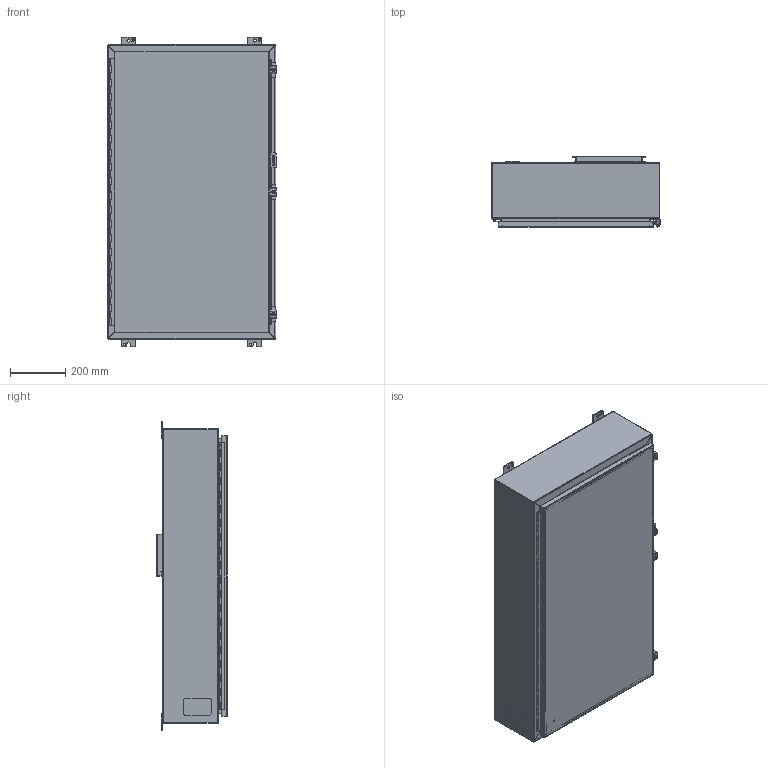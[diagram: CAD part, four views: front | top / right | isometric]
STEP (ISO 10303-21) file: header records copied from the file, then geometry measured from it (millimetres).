
FILE_DESCRIPTION(/* description */ ('Unknown'),/* implementation_level */ '2;1');
FILE_NAME(/* name */ '1418N8LP',/* time_stamp */ '2026-02-20T16:35:22-05:00',/* author */ ('Unknown'),/* organization */ ('Unknown'),/* preprocessor_version */ 'ST-DEVELOPER v18.104',/* originating_system */ 'Solid Edge',/* authorisation */ 'Unknown');
FILE_SCHEMA (('AUTOMOTIVE_DESIGN {1 0 10303 214 3 1 1}'));
Length unit declared in the file: millimetre
Products named in the file (31): 1418N8LP; STD26094; STD21878; COM42780; AKT90223; SPR20265; SCC19011; WAF25035; COM42667; COM40153-1; KIT90256; LAB30005; NTS165305; NTS16535; KIT90519; WAF25059; NTS166105; COM71780-22; COM40153-2; PNT11078; HNG10620-38C; COM70219_oa_0; COM48492; FET07710; HNG10620-38P; QLB20254; HNG10620-38B; BUL10020; QLB30109; PKT99
Assembly tree (44 placements, depth 3):
  1418N8LP
    STD26094  x6
    STD21878
    COM42780  x3
    AKT90223  x3
      SPR20265
      SCC19011
      WAF25035
      COM42667
    COM40153-1
    KIT90256
      LAB30005
      NTS165305
      NTS16535
    KIT90519
      WAF25059
      NTS166105
    COM71780-22
      COM40153-2
      PNT11078
      COM71780-22
      STD21878
      HNG10620-38C
      COM70219_oa_0
    COM48492
    FET07710  x4
    HNG10620-38P
    QLB20254
    PNT11078
    HNG10620-38B
    BUL10020
    QLB30109
    PKT99
Bounding box: 612.77 x 257.18 x 1123.95 mm (x, y, z)
Volume: 4444141.1 mm3; surface area: 4803987.8 mm2
Topology: 42 solids, 43 shells, 1532 faces, 3965 edges, 2576 vertices
Faces by surface type: plane 1008, cylinder 389, bspline 77, torus 28, cone 28, sphere 2
Full cylindrical faces by diameter (mm): 3.175 x1, 4.763 x1, 4.976 x1, 5.41 x3, 6.198 x3, 6.35 x3, 6.731 x3, 7.137 x2, 7.805 x1, 7.938 x4, 8.382 x6, 9.525 x6, 9.906 x3, 11.113 x4, 11.303 x1, 12.7 x3, 16.51 x6, 25.4 x1, 88.9 x1
Entity records: 37021 total; most frequent: CARTESIAN_POINT 10560, ORIENTED_EDGE 5422, DIRECTION 4950, EDGE_CURVE 2711, VERTEX_POINT 1769, LINE 1768, VECTOR 1768, AXIS2_PLACEMENT_3D 1591
